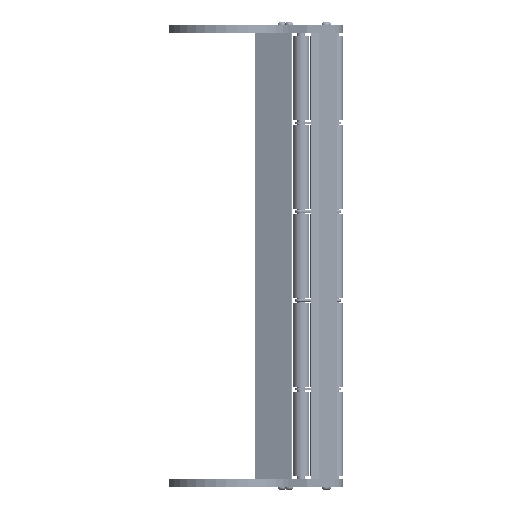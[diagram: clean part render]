
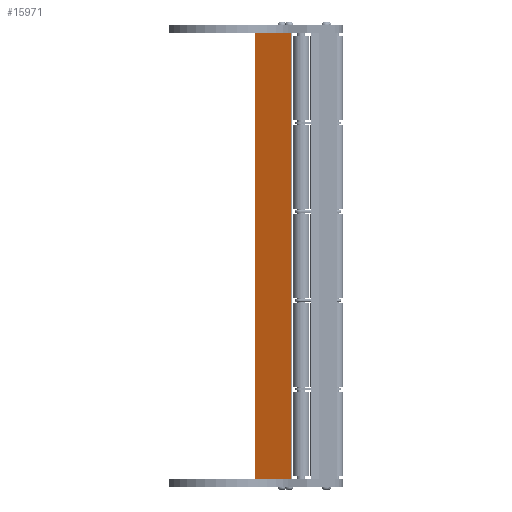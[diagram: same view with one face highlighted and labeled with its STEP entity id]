
A CAD part, front view. The second image highlights one B-rep face of the part: STEP entity #15971.
In plain terms, the highlighted planar face has unit normal (-0.342, -0.94, 0) as drawn and (0.342, -0.94, 0) by its records, which use the part's own axes.
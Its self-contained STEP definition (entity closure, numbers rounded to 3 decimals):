
#1461 = ORIENTED_EDGE ( 'NONE', *, *, #3628, .T. ) ;
#2150 = CARTESIAN_POINT ( 'NONE',  ( 35., 12.137, 0. ) ) ;
#2334 = VECTOR ( 'NONE', #4616, 1000. ) ;
#3329 = AXIS2_PLACEMENT_3D ( 'NONE', #18122, #15239, #9522 ) ;
#3499 = VERTEX_POINT ( 'NONE', #2150 ) ;
#3628 = EDGE_CURVE ( 'NONE', #9236, #3499, #14342, .T. ) ;
#4096 = CARTESIAN_POINT ( 'NONE',  ( 1.655, 0., 418. ) ) ;
#4616 = DIRECTION ( 'NONE',  ( 0.94, 0.342, 0. ) ) ;
#4835 = VERTEX_POINT ( 'NONE', #17989 ) ;
#5602 = ORIENTED_EDGE ( 'NONE', *, *, #11463, .F. ) ;
#5638 = CARTESIAN_POINT ( 'NONE',  ( 35., 12.137, 0. ) ) ;
#6015 = VECTOR ( 'NONE', #10499, 1000. ) ;
#6173 = ORIENTED_EDGE ( 'NONE', *, *, #11417, .F. ) ;
#6334 = CARTESIAN_POINT ( 'NONE',  ( 1.655, 0., 418. ) ) ;
#7051 = ORIENTED_EDGE ( 'NONE', *, *, #9019, .T. ) ;
#7835 = DIRECTION ( 'NONE',  ( 0., 0., -1. ) ) ;
#9019 = EDGE_CURVE ( 'NONE', #12642, #9236, #13465, .T. ) ;
#9180 = CARTESIAN_POINT ( 'NONE',  ( 35., 12.137, 418. ) ) ;
#9236 = VERTEX_POINT ( 'NONE', #12428 ) ;
#9282 = EDGE_LOOP ( 'NONE', ( #1461, #5602, #6173, #7051 ) ) ;
#9522 = DIRECTION ( 'NONE',  ( -0.94, -0.342, 0. ) ) ;
#10060 = CARTESIAN_POINT ( 'NONE',  ( 1.655, 0., 418. ) ) ;
#10410 = LINE ( 'NONE', #9180, #6015 ) ;
#10499 = DIRECTION ( 'NONE',  ( 0., 0., -1. ) ) ;
#11417 = EDGE_CURVE ( 'NONE', #12642, #4835, #16782, .T. ) ;
#11463 = EDGE_CURVE ( 'NONE', #4835, #3499, #10410, .T. ) ;
#11702 = VECTOR ( 'NONE', #17416, 1000. ) ;
#12165 = PLANE ( 'NONE',  #3329 ) ;
#12428 = CARTESIAN_POINT ( 'NONE',  ( 1.655, 0., 0. ) ) ;
#12642 = VERTEX_POINT ( 'NONE', #10060 ) ;
#13465 = LINE ( 'NONE', #6334, #18284 ) ;
#14342 = LINE ( 'NONE', #5638, #2334 ) ;
#14955 = FACE_OUTER_BOUND ( 'NONE', #9282, .T. ) ;
#15239 = DIRECTION ( 'NONE',  ( -0.342, 0.94, 0. ) ) ;
#15971 = ADVANCED_FACE ( 'NONE', ( #14955 ), #12165, .F. ) ;
#16782 = LINE ( 'NONE', #4096, #11702 ) ;
#17416 = DIRECTION ( 'NONE',  ( 0.94, 0.342, 0. ) ) ;
#17989 = CARTESIAN_POINT ( 'NONE',  ( 35., 12.137, 418. ) ) ;
#18122 = CARTESIAN_POINT ( 'NONE',  ( 35., 12.137, 418. ) ) ;
#18284 = VECTOR ( 'NONE', #7835, 1000. ) ;
